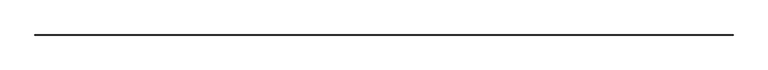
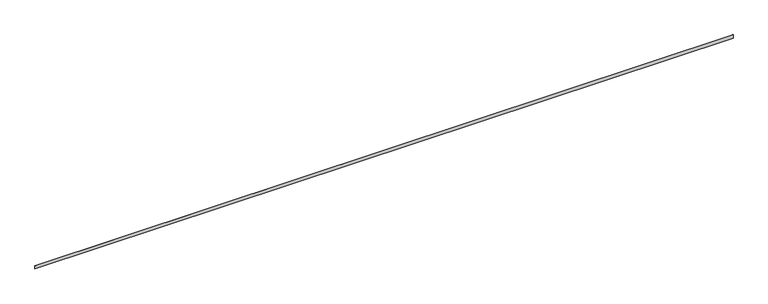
"""IFC4 building model written with IfcOpenShell, lengths in millimetres: proxy geometry, Electrical_Installation_Hager_Partition-Wall : Electrical_Installation_Hager_Partition-Wall."""

from ifc_helpers import new_model, si_unit, frame, origin, place, context, project, spatial, polyline, outline, extrude, source, transform, mapped, element, save


def electrical_fixtures_61ad2b22(model_context):
    return source(origin(), model_context, "Body", "SweptSolid", [
        extrude(outline(polyline([(12969.0, 71.0), (12969.0, 69.0), (0.0, 69.0), (0.0, 71.0), (12969.0, 71.0)])), frame((0.0, 0.0, -32.5053974), z_axis=(0.0, 0.0, 1.0), x_axis=(1.0, 0.0, 0.0)), (0.0, 0.0, 1.0), 63.0),
    ])


if __name__ == "__main__":
    model = new_model("IFC4")
    model_context = context("Model", 3, world=origin())
    ifc_project = project(units=[si_unit("LENGTHUNIT", "METRE", prefix="MILLI")], contexts=[model_context])
    site = spatial("IfcSite", under=ifc_project)
    building = spatial("IfcBuilding", under=site)
    placement = place(None, origin())
    electrical_fixtures_shape = electrical_fixtures_61ad2b22(model_context)
    element("IfcBuildingElementProxy", 1, Name="Electrical_Installation_Hager_Partition-Wall : Electrical_Installation_Hager_Partition-Wall", ObjectType="Electrical_Installation_Hager_Partition-Wall : Electrical_Installation_Hager_Partition-Wall", at=placement, inside=building, context=model_context, shape_type="MappedRepresentation", body=[
        mapped(electrical_fixtures_shape, transform((0.0, 0.0, 0.0), x_axis=(1.0, 0.0, 0.0), y_axis=(0.0, 1.0, 0.0), z_axis=(0.0, 0.0, 1.0))),
    ])
    save(model, "model.ifc")
